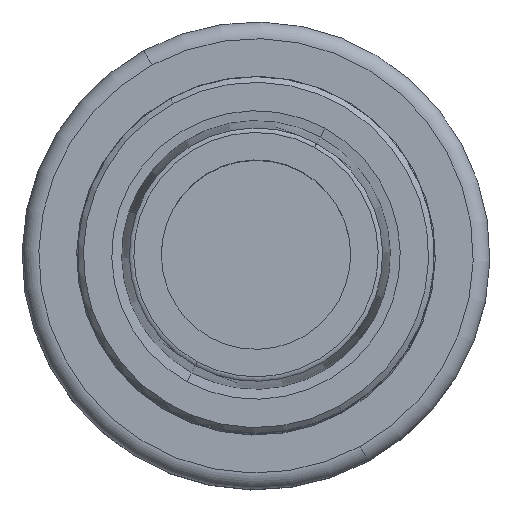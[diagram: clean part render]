
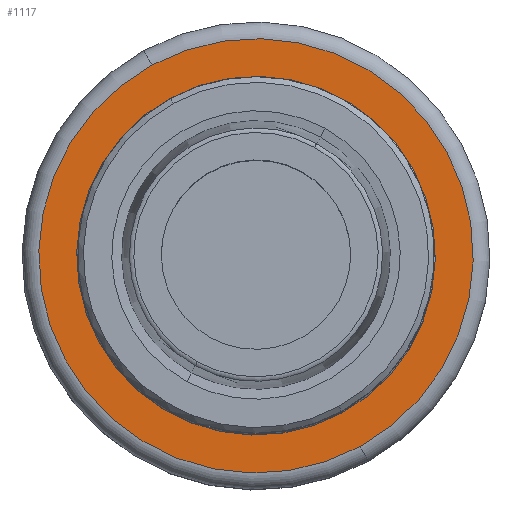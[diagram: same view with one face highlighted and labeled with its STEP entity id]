
A CAD part, top view. The second image highlights one B-rep face of the part: STEP entity #1117.
In plain terms, the highlighted planar face has unit normal (0, 0, 1).
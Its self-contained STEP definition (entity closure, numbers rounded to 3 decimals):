
#1068=AXIS2_PLACEMENT_3D('Circle Axis2P3D',#1066,#1067,$) ;
#1080=AXIS2_PLACEMENT_3D('Circle Axis2P3D',#1078,#1079,$) ;
#1093=AXIS2_PLACEMENT_3D('Plane Axis2P3D',#1090,#1091,#1092) ;
#1097=AXIS2_PLACEMENT_3D('Circle Axis2P3D',#1095,#1096,$) ;
#1106=AXIS2_PLACEMENT_3D('Circle Axis2P3D',#1104,#1105,$) ;
#1056=CARTESIAN_POINT('Vertex',(-7.671,14.041,-45.)) ;
#1063=CARTESIAN_POINT('Vertex',(7.671,-14.041,-45.)) ;
#1066=CARTESIAN_POINT('Axis2P3D Location',(0.,0.,-45.)) ;
#1078=CARTESIAN_POINT('Axis2P3D Location',(0.,0.,-45.)) ;
#1090=CARTESIAN_POINT('Axis2P3D Location',(0.,0.,-45.)) ;
#1095=CARTESIAN_POINT('Axis2P3D Location',(0.,0.,-45.)) ;
#1099=CARTESIAN_POINT('Vertex',(-9.349,17.113,-45.)) ;
#1101=CARTESIAN_POINT('Vertex',(9.349,-17.113,-45.)) ;
#1104=CARTESIAN_POINT('Axis2P3D Location',(0.,0.,-45.)) ;
#1067=DIRECTION('Axis2P3D Direction',(0.,0.,1.)) ;
#1079=DIRECTION('Axis2P3D Direction',(0.,0.,1.)) ;
#1091=DIRECTION('Axis2P3D Direction',(0.,0.,1.)) ;
#1092=DIRECTION('Axis2P3D XDirection',(-1.,0.,0.)) ;
#1096=DIRECTION('Axis2P3D Direction',(0.,0.,1.)) ;
#1105=DIRECTION('Axis2P3D Direction',(0.,0.,1.)) ;
#1110=ORIENTED_EDGE('',*,*,#1103,.T.) ;
#1111=ORIENTED_EDGE('',*,*,#1108,.T.) ;
#1114=ORIENTED_EDGE('',*,*,#1070,.F.) ;
#1115=ORIENTED_EDGE('',*,*,#1082,.F.) ;
#1116=FACE_BOUND('',#1113,.T.) ;
#1117=ADVANCED_FACE('NOCUT',(#1112,#1116),#1094,.T.) ;
#1069=CIRCLE('generated circle',#1068,16.) ;
#1081=CIRCLE('generated circle',#1080,16.) ;
#1098=CIRCLE('generated circle',#1097,19.5) ;
#1107=CIRCLE('generated circle',#1106,19.5) ;
#1070=EDGE_CURVE('',#1064,#1057,#1069,.T.) ;
#1082=EDGE_CURVE('',#1057,#1064,#1081,.T.) ;
#1103=EDGE_CURVE('',#1100,#1102,#1098,.T.) ;
#1108=EDGE_CURVE('',#1102,#1100,#1107,.T.) ;
#1109=EDGE_LOOP('',(#1110,#1111)) ;
#1113=EDGE_LOOP('',(#1114,#1115)) ;
#1112=FACE_OUTER_BOUND('',#1109,.T.) ;
#1094=PLANE('',#1093) ;
#1057=VERTEX_POINT('',#1056) ;
#1064=VERTEX_POINT('',#1063) ;
#1100=VERTEX_POINT('',#1099) ;
#1102=VERTEX_POINT('',#1101) ;
